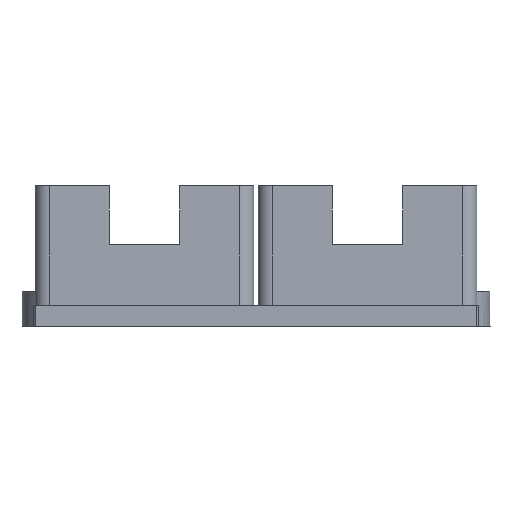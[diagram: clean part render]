
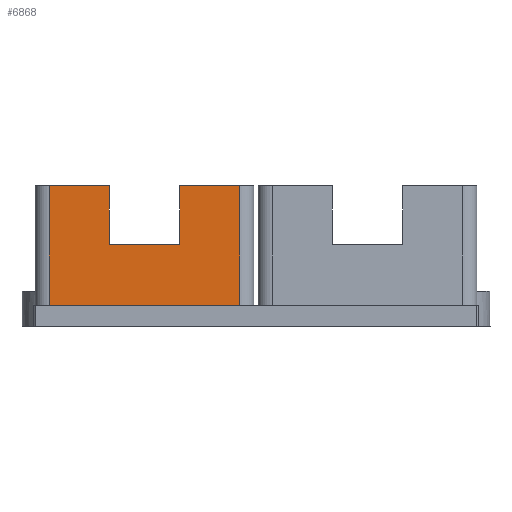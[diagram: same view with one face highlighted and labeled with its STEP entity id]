
A CAD part, front view. The second image highlights one B-rep face of the part: STEP entity #6868.
In plain terms, the highlighted planar face has unit normal (0, -1, 0).
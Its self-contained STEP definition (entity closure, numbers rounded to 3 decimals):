
#922 = PLANE('',#923);
#923 = AXIS2_PLACEMENT_3D('',#924,#925,#926);
#924 = CARTESIAN_POINT('',(-37.925,0.175,11.8));
#925 = DIRECTION('',(0.,0.,1.));
#926 = DIRECTION('',(1.,0.,-0.));
#1105 = PLANE('',#1106);
#1106 = AXIS2_PLACEMENT_3D('',#1107,#1108,#1109);
#1107 = CARTESIAN_POINT('',(-18.875,19.225,22.));
#1108 = DIRECTION('',(0.,0.,1.));
#1109 = DIRECTION('',(1.,0.,-0.));
#1131 = CYLINDRICAL_SURFACE('',#1132,1.2);
#1132 = AXIS2_PLACEMENT_3D('',#1133,#1134,#1135);
#1133 = CARTESIAN_POINT('',(-17.675,20.425,11.8));
#1134 = DIRECTION('',(0.,0.,1.));
#1135 = DIRECTION('',(-1.,-0.,0.));
#3985 = VERTEX_POINT('',#3986);
#3986 = CARTESIAN_POINT('',(-1.375,19.225,11.8));
#4005 = CYLINDRICAL_SURFACE('',#4006,1.2);
#4006 = AXIS2_PLACEMENT_3D('',#4007,#4008,#4009);
#4007 = CARTESIAN_POINT('',(-1.375,20.425,11.8));
#4008 = DIRECTION('',(0.,0.,1.));
#4009 = DIRECTION('',(1.,0.,-0.));
#4017 = EDGE_CURVE('',#4018,#3985,#4020,.T.);
#4018 = VERTEX_POINT('',#4019);
#4019 = CARTESIAN_POINT('',(-17.675,19.225,11.8));
#4020 = SURFACE_CURVE('',#4021,(#4025,#4032),.PCURVE_S1.);
#4021 = LINE('',#4022,#4023);
#4022 = CARTESIAN_POINT('',(-18.875,19.225,11.8));
#4023 = VECTOR('',#4024,1.);
#4024 = DIRECTION('',(1.,0.,0.));
#4025 = PCURVE('',#922,#4026);
#4026 = DEFINITIONAL_REPRESENTATION('',(#4027),#4031);
#4027 = LINE('',#4028,#4029);
#4028 = CARTESIAN_POINT('',(19.05,19.05));
#4029 = VECTOR('',#4030,1.);
#4030 = DIRECTION('',(1.,0.));
#4031 = ( GEOMETRIC_REPRESENTATION_CONTEXT(2) 
PARAMETRIC_REPRESENTATION_CONTEXT() REPRESENTATION_CONTEXT('2D SPACE',''
  ) );
#4032 = PCURVE('',#4033,#4038);
#4033 = PLANE('',#4034);
#4034 = AXIS2_PLACEMENT_3D('',#4035,#4036,#4037);
#4035 = CARTESIAN_POINT('',(-18.875,19.225,11.8));
#4036 = DIRECTION('',(0.,1.,0.));
#4037 = DIRECTION('',(0.,-0.,1.));
#4038 = DEFINITIONAL_REPRESENTATION('',(#4039),#4043);
#4039 = LINE('',#4040,#4041);
#4040 = CARTESIAN_POINT('',(0.,0.));
#4041 = VECTOR('',#4042,1.);
#4042 = DIRECTION('',(0.,1.));
#4043 = ( GEOMETRIC_REPRESENTATION_CONTEXT(2) 
PARAMETRIC_REPRESENTATION_CONTEXT() REPRESENTATION_CONTEXT('2D SPACE',''
  ) );
#4071 = EDGE_CURVE('',#4018,#4072,#4074,.T.);
#4072 = VERTEX_POINT('',#4073);
#4073 = CARTESIAN_POINT('',(-17.675,19.225,22.));
#4074 = SURFACE_CURVE('',#4075,(#4079,#4086),.PCURVE_S1.);
#4075 = LINE('',#4076,#4077);
#4076 = CARTESIAN_POINT('',(-17.675,19.225,11.8));
#4077 = VECTOR('',#4078,1.);
#4078 = DIRECTION('',(0.,0.,1.));
#4079 = PCURVE('',#1131,#4080);
#4080 = DEFINITIONAL_REPRESENTATION('',(#4081),#4085);
#4081 = LINE('',#4082,#4083);
#4082 = CARTESIAN_POINT('',(1.571,0.));
#4083 = VECTOR('',#4084,1.);
#4084 = DIRECTION('',(0.,1.));
#4085 = ( GEOMETRIC_REPRESENTATION_CONTEXT(2) 
PARAMETRIC_REPRESENTATION_CONTEXT() REPRESENTATION_CONTEXT('2D SPACE',''
  ) );
#4086 = PCURVE('',#4033,#4087);
#4087 = DEFINITIONAL_REPRESENTATION('',(#4088),#4092);
#4088 = LINE('',#4089,#4090);
#4089 = CARTESIAN_POINT('',(0.,1.2));
#4090 = VECTOR('',#4091,1.);
#4091 = DIRECTION('',(1.,0.));
#4092 = ( GEOMETRIC_REPRESENTATION_CONTEXT(2) 
PARAMETRIC_REPRESENTATION_CONTEXT() REPRESENTATION_CONTEXT('2D SPACE',''
  ) );
#4122 = EDGE_CURVE('',#4072,#4123,#4125,.T.);
#4123 = VERTEX_POINT('',#4124);
#4124 = CARTESIAN_POINT('',(-12.525,19.225,22.));
#4125 = SURFACE_CURVE('',#4126,(#4130,#4137),.PCURVE_S1.);
#4126 = LINE('',#4127,#4128);
#4127 = CARTESIAN_POINT('',(-18.875,19.225,22.));
#4128 = VECTOR('',#4129,1.);
#4129 = DIRECTION('',(1.,0.,0.));
#4130 = PCURVE('',#1105,#4131);
#4131 = DEFINITIONAL_REPRESENTATION('',(#4132),#4136);
#4132 = LINE('',#4133,#4134);
#4133 = CARTESIAN_POINT('',(0.,0.));
#4134 = VECTOR('',#4135,1.);
#4135 = DIRECTION('',(1.,0.));
#4136 = ( GEOMETRIC_REPRESENTATION_CONTEXT(2) 
PARAMETRIC_REPRESENTATION_CONTEXT() REPRESENTATION_CONTEXT('2D SPACE',''
  ) );
#4137 = PCURVE('',#4033,#4138);
#4138 = DEFINITIONAL_REPRESENTATION('',(#4139),#4143);
#4139 = LINE('',#4140,#4141);
#4140 = CARTESIAN_POINT('',(10.2,0.));
#4141 = VECTOR('',#4142,1.);
#4142 = DIRECTION('',(0.,1.));
#4143 = ( GEOMETRIC_REPRESENTATION_CONTEXT(2) 
PARAMETRIC_REPRESENTATION_CONTEXT() REPRESENTATION_CONTEXT('2D SPACE',''
  ) );
#4161 = PLANE('',#4162);
#4162 = AXIS2_PLACEMENT_3D('',#4163,#4164,#4165);
#4163 = CARTESIAN_POINT('',(-12.525,18.075,17.));
#4164 = DIRECTION('',(1.,0.,0.));
#4165 = DIRECTION('',(0.,0.,1.));
#6868 = ADVANCED_FACE('',(#6869),#4033,.F.);
#6869 = FACE_BOUND('',#6870,.F.);
#6870 = EDGE_LOOP('',(#6871,#6872,#6873,#6874,#6897,#6925,#6953,#6981));
#6871 = ORIENTED_EDGE('',*,*,#4017,.F.);
#6872 = ORIENTED_EDGE('',*,*,#4071,.T.);
#6873 = ORIENTED_EDGE('',*,*,#4122,.T.);
#6874 = ORIENTED_EDGE('',*,*,#6875,.T.);
#6875 = EDGE_CURVE('',#4123,#6876,#6878,.T.);
#6876 = VERTEX_POINT('',#6877);
#6877 = CARTESIAN_POINT('',(-12.525,19.225,17.));
#6878 = SURFACE_CURVE('',#6879,(#6883,#6890),.PCURVE_S1.);
#6879 = LINE('',#6880,#6881);
#6880 = CARTESIAN_POINT('',(-12.525,19.225,14.4));
#6881 = VECTOR('',#6882,1.);
#6882 = DIRECTION('',(0.,0.,-1.));
#6883 = PCURVE('',#4033,#6884);
#6884 = DEFINITIONAL_REPRESENTATION('',(#6885),#6889);
#6885 = LINE('',#6886,#6887);
#6886 = CARTESIAN_POINT('',(2.6,6.35));
#6887 = VECTOR('',#6888,1.);
#6888 = DIRECTION('',(-1.,0.));
#6889 = ( GEOMETRIC_REPRESENTATION_CONTEXT(2) 
PARAMETRIC_REPRESENTATION_CONTEXT() REPRESENTATION_CONTEXT('2D SPACE',''
  ) );
#6890 = PCURVE('',#4161,#6891);
#6891 = DEFINITIONAL_REPRESENTATION('',(#6892),#6896);
#6892 = LINE('',#6893,#6894);
#6893 = CARTESIAN_POINT('',(-2.6,-1.15));
#6894 = VECTOR('',#6895,1.);
#6895 = DIRECTION('',(-1.,0.));
#6896 = ( GEOMETRIC_REPRESENTATION_CONTEXT(2) 
PARAMETRIC_REPRESENTATION_CONTEXT() REPRESENTATION_CONTEXT('2D SPACE',''
  ) );
#6897 = ORIENTED_EDGE('',*,*,#6898,.T.);
#6898 = EDGE_CURVE('',#6876,#6899,#6901,.T.);
#6899 = VERTEX_POINT('',#6900);
#6900 = CARTESIAN_POINT('',(-6.525,19.225,17.));
#6901 = SURFACE_CURVE('',#6902,(#6906,#6913),.PCURVE_S1.);
#6902 = LINE('',#6903,#6904);
#6903 = CARTESIAN_POINT('',(-15.7,19.225,17.));
#6904 = VECTOR('',#6905,1.);
#6905 = DIRECTION('',(1.,0.,0.));
#6906 = PCURVE('',#4033,#6907);
#6907 = DEFINITIONAL_REPRESENTATION('',(#6908),#6912);
#6908 = LINE('',#6909,#6910);
#6909 = CARTESIAN_POINT('',(5.2,3.175));
#6910 = VECTOR('',#6911,1.);
#6911 = DIRECTION('',(0.,1.));
#6912 = ( GEOMETRIC_REPRESENTATION_CONTEXT(2) 
PARAMETRIC_REPRESENTATION_CONTEXT() REPRESENTATION_CONTEXT('2D SPACE',''
  ) );
#6913 = PCURVE('',#6914,#6919);
#6914 = PLANE('',#6915);
#6915 = AXIS2_PLACEMENT_3D('',#6916,#6917,#6918);
#6916 = CARTESIAN_POINT('',(-12.525,18.075,17.));
#6917 = DIRECTION('',(0.,0.,1.));
#6918 = DIRECTION('',(1.,0.,-0.));
#6919 = DEFINITIONAL_REPRESENTATION('',(#6920),#6924);
#6920 = LINE('',#6921,#6922);
#6921 = CARTESIAN_POINT('',(-3.175,1.15));
#6922 = VECTOR('',#6923,1.);
#6923 = DIRECTION('',(1.,0.));
#6924 = ( GEOMETRIC_REPRESENTATION_CONTEXT(2) 
PARAMETRIC_REPRESENTATION_CONTEXT() REPRESENTATION_CONTEXT('2D SPACE',''
  ) );
#6925 = ORIENTED_EDGE('',*,*,#6926,.F.);
#6926 = EDGE_CURVE('',#6927,#6899,#6929,.T.);
#6927 = VERTEX_POINT('',#6928);
#6928 = CARTESIAN_POINT('',(-6.525,19.225,22.));
#6929 = SURFACE_CURVE('',#6930,(#6934,#6941),.PCURVE_S1.);
#6930 = LINE('',#6931,#6932);
#6931 = CARTESIAN_POINT('',(-6.525,19.225,14.4));
#6932 = VECTOR('',#6933,1.);
#6933 = DIRECTION('',(0.,0.,-1.));
#6934 = PCURVE('',#4033,#6935);
#6935 = DEFINITIONAL_REPRESENTATION('',(#6936),#6940);
#6936 = LINE('',#6937,#6938);
#6937 = CARTESIAN_POINT('',(2.6,12.35));
#6938 = VECTOR('',#6939,1.);
#6939 = DIRECTION('',(-1.,0.));
#6940 = ( GEOMETRIC_REPRESENTATION_CONTEXT(2) 
PARAMETRIC_REPRESENTATION_CONTEXT() REPRESENTATION_CONTEXT('2D SPACE',''
  ) );
#6941 = PCURVE('',#6942,#6947);
#6942 = PLANE('',#6943);
#6943 = AXIS2_PLACEMENT_3D('',#6944,#6945,#6946);
#6944 = CARTESIAN_POINT('',(-6.525,18.075,17.));
#6945 = DIRECTION('',(1.,0.,0.));
#6946 = DIRECTION('',(0.,0.,1.));
#6947 = DEFINITIONAL_REPRESENTATION('',(#6948),#6952);
#6948 = LINE('',#6949,#6950);
#6949 = CARTESIAN_POINT('',(-2.6,-1.15));
#6950 = VECTOR('',#6951,1.);
#6951 = DIRECTION('',(-1.,0.));
#6952 = ( GEOMETRIC_REPRESENTATION_CONTEXT(2) 
PARAMETRIC_REPRESENTATION_CONTEXT() REPRESENTATION_CONTEXT('2D SPACE',''
  ) );
#6953 = ORIENTED_EDGE('',*,*,#6954,.T.);
#6954 = EDGE_CURVE('',#6927,#6955,#6957,.T.);
#6955 = VERTEX_POINT('',#6956);
#6956 = CARTESIAN_POINT('',(-1.375,19.225,22.));
#6957 = SURFACE_CURVE('',#6958,(#6962,#6969),.PCURVE_S1.);
#6958 = LINE('',#6959,#6960);
#6959 = CARTESIAN_POINT('',(-18.875,19.225,22.));
#6960 = VECTOR('',#6961,1.);
#6961 = DIRECTION('',(1.,0.,0.));
#6962 = PCURVE('',#4033,#6963);
#6963 = DEFINITIONAL_REPRESENTATION('',(#6964),#6968);
#6964 = LINE('',#6965,#6966);
#6965 = CARTESIAN_POINT('',(10.2,0.));
#6966 = VECTOR('',#6967,1.);
#6967 = DIRECTION('',(0.,1.));
#6968 = ( GEOMETRIC_REPRESENTATION_CONTEXT(2) 
PARAMETRIC_REPRESENTATION_CONTEXT() REPRESENTATION_CONTEXT('2D SPACE',''
  ) );
#6969 = PCURVE('',#6970,#6975);
#6970 = PLANE('',#6971);
#6971 = AXIS2_PLACEMENT_3D('',#6972,#6973,#6974);
#6972 = CARTESIAN_POINT('',(-18.875,19.225,22.));
#6973 = DIRECTION('',(0.,0.,1.));
#6974 = DIRECTION('',(1.,0.,-0.));
#6975 = DEFINITIONAL_REPRESENTATION('',(#6976),#6980);
#6976 = LINE('',#6977,#6978);
#6977 = CARTESIAN_POINT('',(0.,0.));
#6978 = VECTOR('',#6979,1.);
#6979 = DIRECTION('',(1.,0.));
#6980 = ( GEOMETRIC_REPRESENTATION_CONTEXT(2) 
PARAMETRIC_REPRESENTATION_CONTEXT() REPRESENTATION_CONTEXT('2D SPACE',''
  ) );
#6981 = ORIENTED_EDGE('',*,*,#6982,.F.);
#6982 = EDGE_CURVE('',#3985,#6955,#6983,.T.);
#6983 = SURFACE_CURVE('',#6984,(#6988,#6995),.PCURVE_S1.);
#6984 = LINE('',#6985,#6986);
#6985 = CARTESIAN_POINT('',(-1.375,19.225,11.8));
#6986 = VECTOR('',#6987,1.);
#6987 = DIRECTION('',(0.,0.,1.));
#6988 = PCURVE('',#4033,#6989);
#6989 = DEFINITIONAL_REPRESENTATION('',(#6990),#6994);
#6990 = LINE('',#6991,#6992);
#6991 = CARTESIAN_POINT('',(0.,17.5));
#6992 = VECTOR('',#6993,1.);
#6993 = DIRECTION('',(1.,0.));
#6994 = ( GEOMETRIC_REPRESENTATION_CONTEXT(2) 
PARAMETRIC_REPRESENTATION_CONTEXT() REPRESENTATION_CONTEXT('2D SPACE',''
  ) );
#6995 = PCURVE('',#4005,#6996);
#6996 = DEFINITIONAL_REPRESENTATION('',(#6997),#7001);
#6997 = LINE('',#6998,#6999);
#6998 = CARTESIAN_POINT('',(4.712,0.));
#6999 = VECTOR('',#7000,1.);
#7000 = DIRECTION('',(-0.,1.));
#7001 = ( GEOMETRIC_REPRESENTATION_CONTEXT(2) 
PARAMETRIC_REPRESENTATION_CONTEXT() REPRESENTATION_CONTEXT('2D SPACE',''
  ) );
